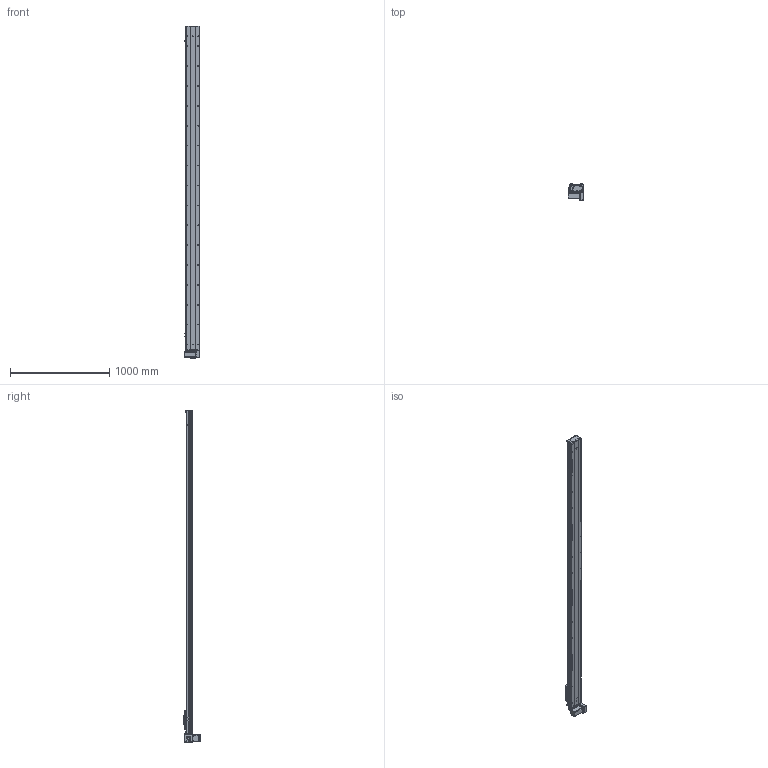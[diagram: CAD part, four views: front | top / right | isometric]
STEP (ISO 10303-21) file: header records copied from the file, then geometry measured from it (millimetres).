
FILE_DESCRIPTION (( 'STEP AP203' ), '1' );
FILE_NAME ('Y135CB-D90-S2950-BM-P400W.STEP', '2020-02-19T02:40:34', ( '微软用户' ), ( '微软中国' ), 'SwSTEP 2.0', 'SolidWorks 2017', '' );
FILE_SCHEMA (( 'CONFIG_CONTROL_DESIGN' ));
Length unit declared in the file: millimetre
Products named in the file (18): Y10B-耜蚾蟀諉啣----; 0B-源倛裔啣; Y135CB-D90-S2950-BM-P400W; 0B-萇儂楊擘啣; san松下电机400不带刹车----; Y135C-陔俋离換覜結え-; 5CB --掛极耜裔啣-; 5C--俋欶; C-詩湍揤踡え-陔; Y135CB-耜裔; C-雄赽釱--; 135CB--詩湍-CE; 135CB---遴掛极.-; Y10B--々湍喘謫眊--666; Y100-135俋离換覜ん--; 35CB---喘謫眊楊擘啣; 00B-俋欶BM--; 0B-埴倛裔啣
Assembly tree (21 placements, depth 2):
  Y135CB-D90-S2950-BM-P400W
    Y135CB-耜裔
    135CB---遴掛极.-
    35CB---喘謫眊楊擘啣
    0B-埴倛裔啣
    0B-源倛裔啣
    0B-萇儂楊擘啣
    san松下电机400不带刹车----
    5CB --掛极耜裔啣-  x2
    C-詩湍揤踡え-陔  x2
    135CB--詩湍-CE
    Y100-135俋离換覜ん--  x3
    Y135C-陔俋离換覜結え-
    5C--俋欶
    C-雄赽釱--
    Y10B--々湍喘謫眊--666
    00B-俋欶BM--
    Y10B-耜蚾蟀諉啣----
Bounding box: 157 x 163.3 x 3338 mm (x, y, z)
Volume: 9450372.7 mm3; surface area: 3749164.3 mm2
Topology: 21 solids, 21 shells, 985 faces, 2707 edges, 1794 vertices
Faces by surface type: cylinder 513, plane 456, cone 16
Entity records: 31369 total; most frequent: CARTESIAN_POINT 5252, DIRECTION 5215, ORIENTED_EDGE 4890, EDGE_CURVE 2445, AXIS2_PLACEMENT_3D 1917, VERTEX_POINT 1622, VECTOR 1381, LINE 1381
